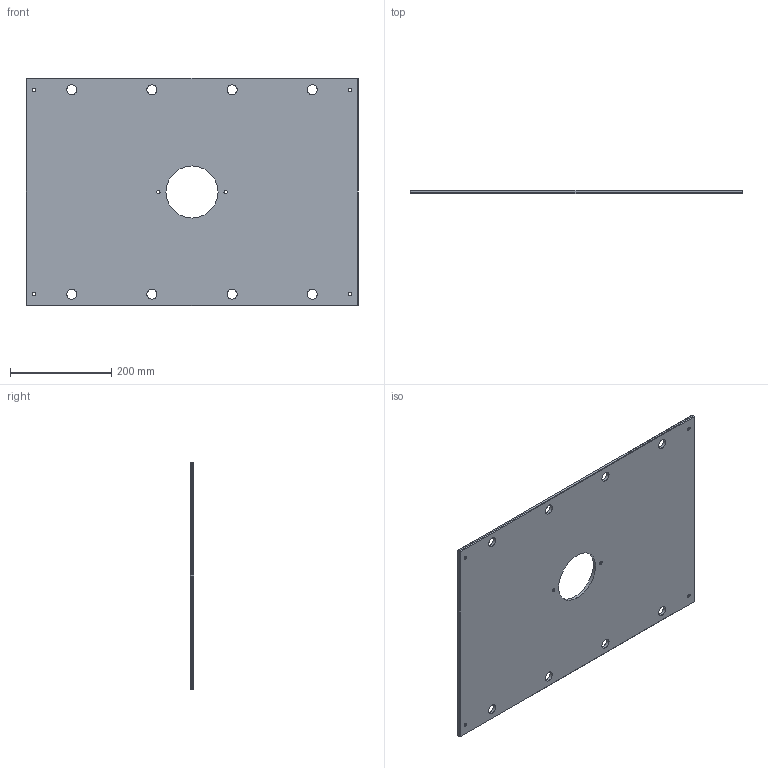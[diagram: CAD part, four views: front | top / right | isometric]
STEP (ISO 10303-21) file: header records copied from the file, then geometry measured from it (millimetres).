
FILE_DESCRIPTION (( 'STEP AP214' ), '1' );
FILE_NAME ('ME-0619-CH-1826.STEP', '2020-02-11T18:04:38', ( '' ), ( '' ), 'SwSTEP 2.0', 'SolidWorks 2018', '' );
FILE_SCHEMA (( 'AUTOMOTIVE_DESIGN' ));
Length unit declared in the file: inch
Products named in the file (1): ME-0619-CH-1826
Bounding box: 657.23 x 6.35 x 450.85 mm (x, y, z)
Volume: 1806450.3 mm3; surface area: 587160.7 mm2
Topology: 1 solids, 1 shells, 68 faces, 162 edges, 96 vertices
Faces by surface type: cylinder 30, plane 26, cone 12
Entity records: 2050 total; most frequent: DIRECTION 372, CARTESIAN_POINT 327, ORIENTED_EDGE 324, EDGE_CURVE 162, AXIS2_PLACEMENT_3D 141, EDGE_LOOP 98, VERTEX_POINT 96, LINE 90
